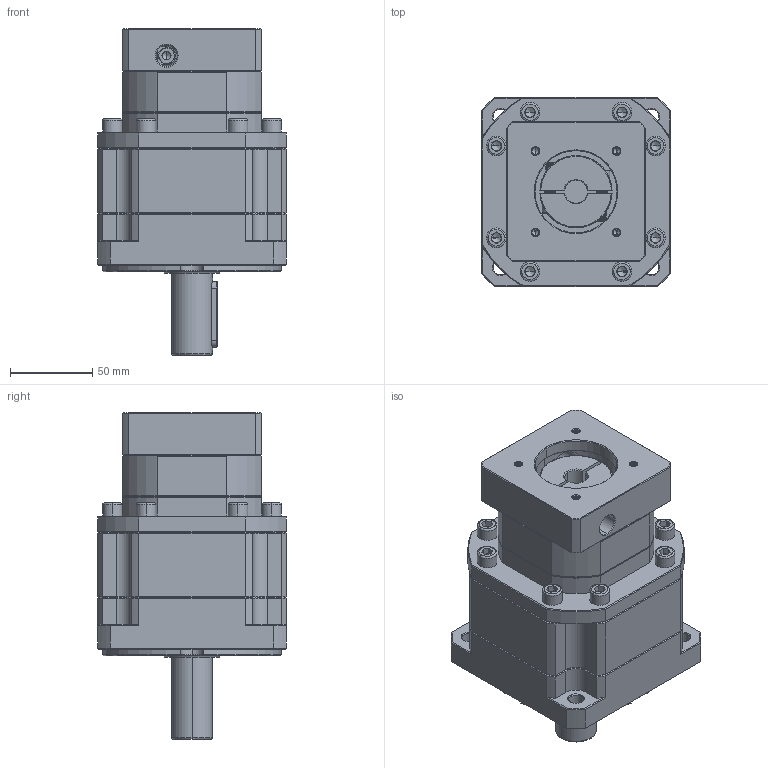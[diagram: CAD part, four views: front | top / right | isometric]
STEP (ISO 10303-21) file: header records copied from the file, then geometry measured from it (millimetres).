
FILE_DESCRIPTION (( 'STEP AP214' ), '1' );
FILE_NAME ('ZB115A-D25-L2-P2-14-50-70-M5.step', '2023-08-26T09:58:55', ( '' ), ( '' ), 'SwSTEP 2.0', 'SolidWorks 2016', '' );
FILE_SCHEMA (( 'AUTOMOTIVE_DESIGN' ));
Length unit declared in the file: millimetre
Products named in the file (1): ZB115A-D25-L2-P2-14-50-70-M5
Bounding box: 115 x 115 x 199 mm (x, y, z)
Volume: 1379111.5 mm3; surface area: 132942.4 mm2
Topology: 5 solids, 6 shells, 2417 faces, 6361 edges, 4046 vertices
Faces by surface type: plane 1186, bspline 442, cylinder 425, cone 364
Entity records: 128833 total; most frequent: CARTESIAN_POINT 46266, ORIENTED_EDGE 12646, DIRECTION 9982, EDGE_CURVE 6323, VECTOR 4054, LINE 4054, VERTEX_POINT 4046, AXIS2_PLACEMENT_3D 2964
